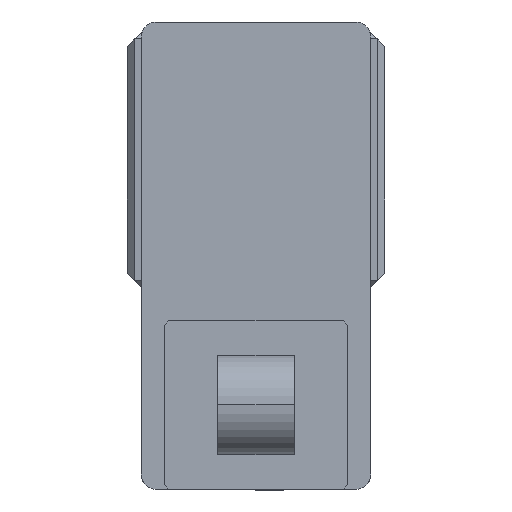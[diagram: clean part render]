
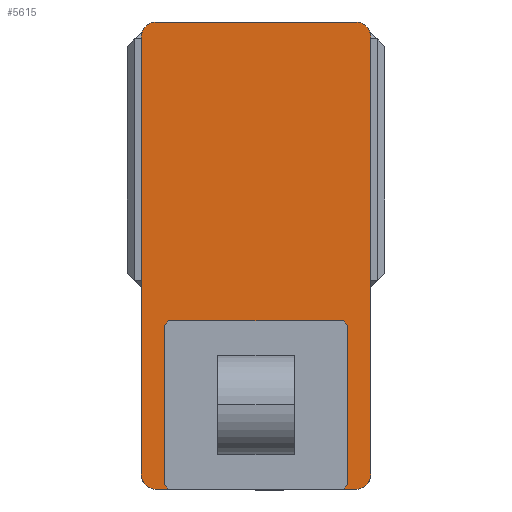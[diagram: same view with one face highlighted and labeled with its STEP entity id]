
A CAD part, left-side view. The second image highlights one B-rep face of the part: STEP entity #5615.
In plain terms, the highlighted planar face has unit normal (-1, 0, 0) as drawn and (0, 0, 1) by its records, which use the part's own axes.
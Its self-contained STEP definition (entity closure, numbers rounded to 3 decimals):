
#480 = EDGE_LOOP ( 'NONE', ( #5024, #8306, #13842, #6874, #14534, #15813, #11398, #837 ) ) ;
#559 = FACE_OUTER_BOUND ( 'NONE', #480, .T. ) ;
#651 = CARTESIAN_POINT ( 'NONE',  ( -65., 142.5, 105. ) ) ;
#837 = ORIENTED_EDGE ( 'NONE', *, *, #10579, .T. ) ;
#1006 = AXIS2_PLACEMENT_3D ( 'NONE', #5947, #17014, #7565 ) ;
#1636 = EDGE_CURVE ( 'NONE', #5584, #10581, #13894, .T. ) ;
#1739 = VERTEX_POINT ( 'NONE', #4898 ) ;
#2022 = VERTEX_POINT ( 'NONE', #7206 ) ;
#2239 = DIRECTION ( 'NONE',  ( 1., 0., 0. ) ) ;
#2312 = DIRECTION ( 'NONE',  ( 0., 1., 0. ) ) ;
#2584 = VERTEX_POINT ( 'NONE', #19310 ) ;
#2785 = EDGE_CURVE ( 'NONE', #9339, #4122, #7736, .T. ) ;
#3168 = CARTESIAN_POINT ( 'NONE',  ( 65., 142.5, 105. ) ) ;
#4122 = VERTEX_POINT ( 'NONE', #13303 ) ;
#4203 = EDGE_CURVE ( 'NONE', #4122, #1739, #5939, .T. ) ;
#4775 = DIRECTION ( 'NONE',  ( 1., 0., 0. ) ) ;
#4898 = CARTESIAN_POINT ( 'NONE',  ( -75., -142.5, 105. ) ) ;
#5001 = LINE ( 'NONE', #13501, #9766 ) ;
#5024 = ORIENTED_EDGE ( 'NONE', *, *, #18896, .T. ) ;
#5312 = AXIS2_PLACEMENT_3D ( 'NONE', #651, #11842, #2239 ) ;
#5437 = VECTOR ( 'NONE', #11934, 1000. ) ;
#5584 = VERTEX_POINT ( 'NONE', #10419 ) ;
#5615 = ADVANCED_FACE ( 'NONE', ( #559 ), #9039, .T. ) ;
#5939 = LINE ( 'NONE', #19728, #5437 ) ;
#5947 = CARTESIAN_POINT ( 'NONE',  ( -65., -142.5, 105. ) ) ;
#6483 = CIRCLE ( 'NONE', #1006, 10. ) ;
#6686 = AXIS2_PLACEMENT_3D ( 'NONE', #3168, #14308, #4775 ) ;
#6874 = ORIENTED_EDGE ( 'NONE', *, *, #11507, .T. ) ;
#6926 = DIRECTION ( 'NONE',  ( -1., 0., 0. ) ) ;
#6953 = VECTOR ( 'NONE', #6926, 1000. ) ;
#7206 = CARTESIAN_POINT ( 'NONE',  ( 65., 152.5, 105. ) ) ;
#7565 = DIRECTION ( 'NONE',  ( 1., 0., 0. ) ) ;
#7736 = CIRCLE ( 'NONE', #5312, 10. ) ;
#8306 = ORIENTED_EDGE ( 'NONE', *, *, #1636, .T. ) ;
#8879 = AXIS2_PLACEMENT_3D ( 'NONE', #18870, #9458, #20442 ) ;
#9039 = PLANE ( 'NONE',  #16740 ) ;
#9135 = EDGE_CURVE ( 'NONE', #10581, #2584, #5001, .T. ) ;
#9339 = VERTEX_POINT ( 'NONE', #9356 ) ;
#9356 = CARTESIAN_POINT ( 'NONE',  ( -65., 152.5, 105. ) ) ;
#9458 = DIRECTION ( 'NONE',  ( 0., 0., 1. ) ) ;
#9766 = VECTOR ( 'NONE', #2312, 1000. ) ;
#10210 = CARTESIAN_POINT ( 'NONE',  ( -75., -152.5, 105. ) ) ;
#10419 = CARTESIAN_POINT ( 'NONE',  ( 65., -152.5, 105. ) ) ;
#10521 = LINE ( 'NONE', #10210, #18394 ) ;
#10579 = EDGE_CURVE ( 'NONE', #1739, #12096, #6483, .T. ) ;
#10581 = VERTEX_POINT ( 'NONE', #20089 ) ;
#10635 = DIRECTION ( 'NONE',  ( 1., 0., 0. ) ) ;
#11398 = ORIENTED_EDGE ( 'NONE', *, *, #4203, .T. ) ;
#11507 = EDGE_CURVE ( 'NONE', #2584, #2022, #17103, .T. ) ;
#11842 = DIRECTION ( 'NONE',  ( 0., 0., 1. ) ) ;
#11934 = DIRECTION ( 'NONE',  ( 0., -1., 0. ) ) ;
#12096 = VERTEX_POINT ( 'NONE', #16896 ) ;
#12840 = EDGE_CURVE ( 'NONE', #2022, #9339, #19033, .T. ) ;
#13303 = CARTESIAN_POINT ( 'NONE',  ( -75., 142.5, 105. ) ) ;
#13501 = CARTESIAN_POINT ( 'NONE',  ( 75., 152.5, 105. ) ) ;
#13842 = ORIENTED_EDGE ( 'NONE', *, *, #9135, .T. ) ;
#13894 = CIRCLE ( 'NONE', #8879, 10. ) ;
#14308 = DIRECTION ( 'NONE',  ( 0., 0., 1. ) ) ;
#14534 = ORIENTED_EDGE ( 'NONE', *, *, #12840, .T. ) ;
#14815 = CARTESIAN_POINT ( 'NONE',  ( -75., 152.5, 105. ) ) ;
#14909 = DIRECTION ( 'NONE',  ( 1., 0., 0. ) ) ;
#15813 = ORIENTED_EDGE ( 'NONE', *, *, #2785, .T. ) ;
#16740 = AXIS2_PLACEMENT_3D ( 'NONE', #16824, #20034, #10635 ) ;
#16824 = CARTESIAN_POINT ( 'NONE',  ( 0., 0., 105. ) ) ;
#16896 = CARTESIAN_POINT ( 'NONE',  ( -65., -152.5, 105. ) ) ;
#17014 = DIRECTION ( 'NONE',  ( 0., 0., 1. ) ) ;
#17103 = CIRCLE ( 'NONE', #6686, 10. ) ;
#18394 = VECTOR ( 'NONE', #14909, 1000. ) ;
#18870 = CARTESIAN_POINT ( 'NONE',  ( 65., -142.5, 105. ) ) ;
#18896 = EDGE_CURVE ( 'NONE', #12096, #5584, #10521, .T. ) ;
#19033 = LINE ( 'NONE', #14815, #6953 ) ;
#19310 = CARTESIAN_POINT ( 'NONE',  ( 75., 142.5, 105. ) ) ;
#19728 = CARTESIAN_POINT ( 'NONE',  ( -75., 152.5, 105. ) ) ;
#20034 = DIRECTION ( 'NONE',  ( 0., 0., 1. ) ) ;
#20089 = CARTESIAN_POINT ( 'NONE',  ( 75., -142.5, 105. ) ) ;
#20442 = DIRECTION ( 'NONE',  ( 1., 0., 0. ) ) ;
